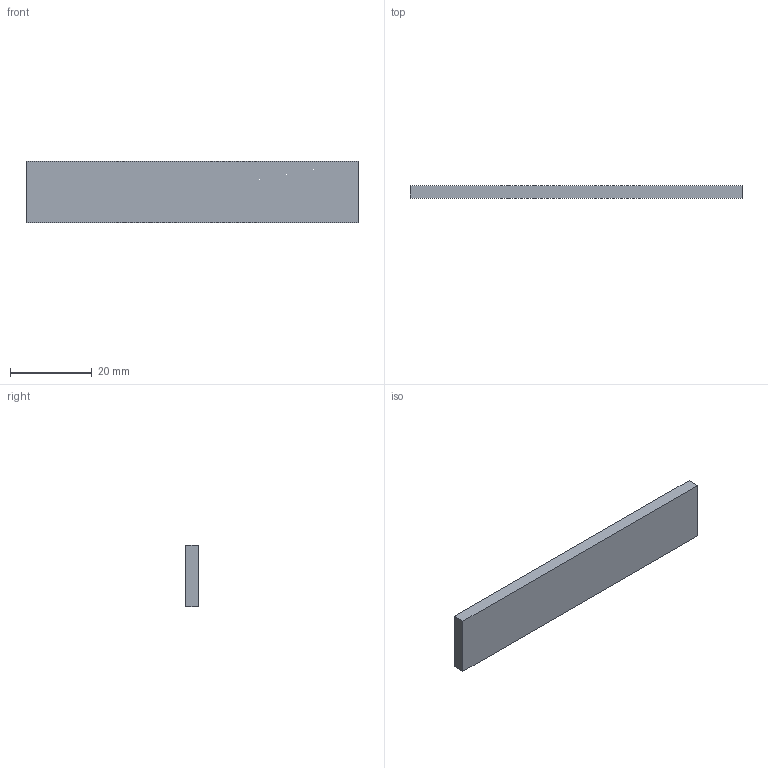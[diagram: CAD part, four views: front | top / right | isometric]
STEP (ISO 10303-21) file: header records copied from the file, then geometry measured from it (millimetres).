
FILE_DESCRIPTION(('Open CASCADE Model'),'2;1');
FILE_NAME('Open CASCADE Shape Model','2026-10-04T02:31:34',('Author'),( 'Open CASCADE'),'Open CASCADE STEP processor 8.0','Open CASCADE 8.0' ,'Unknown');
FILE_SCHEMA(('AUTOMOTIVE_DESIGN { 1 0 10303 214 1 1 1 1 }'));
Length unit declared in the file: millimetre
Products named in the file (1): Open CASCADE STEP translator 8.0 25
Bounding box: 81 x 3 x 15 mm (x, y, z)
Volume: 3645 mm3; surface area: 3006 mm2
Topology: 1 solids, 1 shells, 6 faces, 12 edges, 8 vertices
Faces by surface type: plane 6
Entity records: 322 total; most frequent: CARTESIAN_POINT 51, DIRECTION 50, LINE 36, VECTOR 36, ORIENTED_EDGE 24, PCURVE 24, DEFINITIONAL_REPRESENTATION 24, EDGE_CURVE 12
